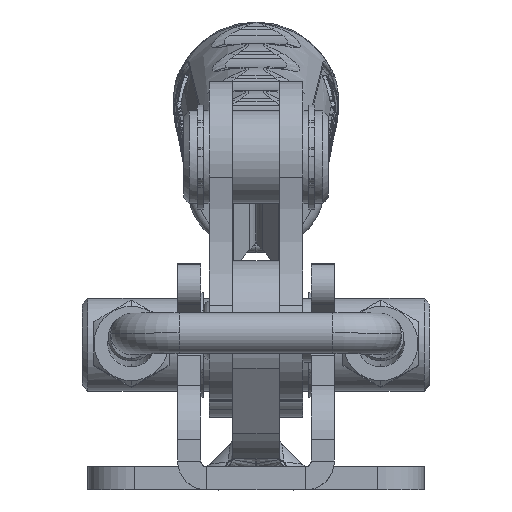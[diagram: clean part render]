
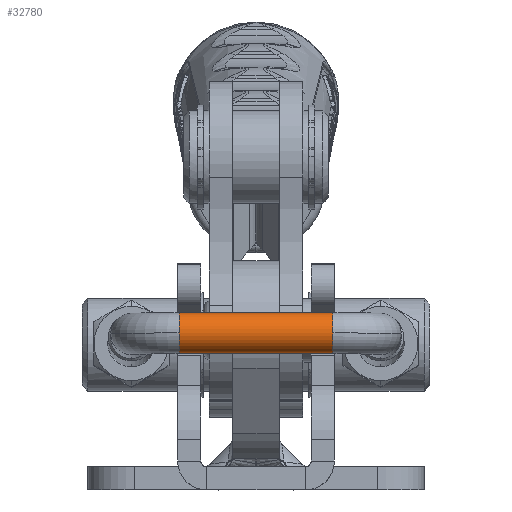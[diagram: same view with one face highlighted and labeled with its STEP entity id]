
A CAD part, left-side view. The second image highlights one B-rep face of the part: STEP entity #32780.
In plain terms, the highlighted cylindrical face has radius 3.55 mm (diameter 7.1 mm), a partial arc.
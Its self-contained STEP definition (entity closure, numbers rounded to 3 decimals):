
#32780=ADVANCED_FACE('',(#51215),#51216,.T.);
#51215=FACE_OUTER_BOUND('',#60417,.T.);
#51216=CYLINDRICAL_SURFACE('',#60418,3.55);
#60417=EDGE_LOOP('',(#72017,#72018,#72019,#72020,#72021,#72022));
#60418=AXIS2_PLACEMENT_3D('',#72023,#72024,#72025);
#72017=ORIENTED_EDGE('',*,*,#102116,.T.);
#72018=ORIENTED_EDGE('',*,*,#102088,.F.);
#72019=ORIENTED_EDGE('',*,*,#102126,.F.);
#72020=ORIENTED_EDGE('',*,*,#102118,.T.);
#72021=ORIENTED_EDGE('',*,*,#102127,.T.);
#72022=ORIENTED_EDGE('',*,*,#102086,.T.);
#72023=CARTESIAN_POINT('',(-129.918,-13.25,27.025));
#72024=DIRECTION('',(0.0,-1.0,0.0));
#72025=DIRECTION('',(0.021,0.0,1.));
#102086=EDGE_CURVE('',#111819,#111827,#111829,.T.);
#102088=EDGE_CURVE('',#111830,#111833,#111834,.T.);
#102116=EDGE_CURVE('',#111827,#111833,#111882,.T.);
#102118=EDGE_CURVE('',#111885,#111883,#111886,.T.);
#102126=EDGE_CURVE('',#111885,#111830,#111896,.T.);
#102127=EDGE_CURVE('',#111883,#111819,#111897,.T.);
#111819=VERTEX_POINT('',#112628);
#111827=VERTEX_POINT('',#112636);
#111829=CIRCLE('',#112638,3.55);
#111830=VERTEX_POINT('',#112639);
#111833=VERTEX_POINT('',#112642);
#111834=CIRCLE('',#112643,3.55);
#111882=LINE('',#112705,#112706);
#111883=VERTEX_POINT('',#112707);
#111885=VERTEX_POINT('',#112709);
#111886=LINE('',#112710,#112711);
#111896=CIRCLE('',#112723,3.55);
#111897=CIRCLE('',#112724,3.55);
#112628=CARTESIAN_POINT('',(-133.467,-13.25,27.084));
#112636=CARTESIAN_POINT('',(-129.844,-13.25,30.574));
#112638=AXIS2_PLACEMENT_3D('',#112748,#112749,#112750);
#112639=CARTESIAN_POINT('',(-133.467,13.25,27.084));
#112642=CARTESIAN_POINT('',(-129.844,13.25,30.574));
#112643=AXIS2_PLACEMENT_3D('',#112754,#112755,#112756);
#112705=CARTESIAN_POINT('',(-129.844,-13.25,30.574));
#112706=VECTOR('',#112810,1.0);
#112707=CARTESIAN_POINT('',(-129.992,-13.25,23.476));
#112709=CARTESIAN_POINT('',(-129.992,13.25,23.476));
#112710=CARTESIAN_POINT('',(-129.992,-13.25,23.476));
#112711=VECTOR('',#112814,1.0);
#112723=AXIS2_PLACEMENT_3D('',#112832,#112833,#112834);
#112724=AXIS2_PLACEMENT_3D('',#112835,#112836,#112837);
#112748=CARTESIAN_POINT('',(-129.918,-13.25,27.025));
#112749=DIRECTION('',(-0.0,1.0,0.0));
#112750=DIRECTION('',(0.021,0.0,1.));
#112754=CARTESIAN_POINT('',(-129.918,13.25,27.025));
#112755=DIRECTION('',(0.,1.0,0.));
#112756=DIRECTION('',(1.,0.,-0.021));
#112810=DIRECTION('',(-0.0,1.0,-0.0));
#112814=DIRECTION('',(0.0,-1.0,0.0));
#112832=CARTESIAN_POINT('',(-129.918,13.25,27.025));
#112833=DIRECTION('',(0.,1.0,0.));
#112834=DIRECTION('',(1.,0.,-0.021));
#112835=CARTESIAN_POINT('',(-129.918,-13.25,27.025));
#112836=DIRECTION('',(-0.0,1.0,0.0));
#112837=DIRECTION('',(0.021,0.0,1.));
